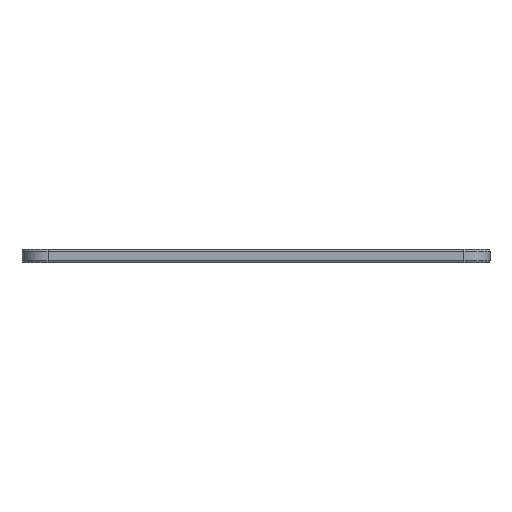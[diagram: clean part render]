
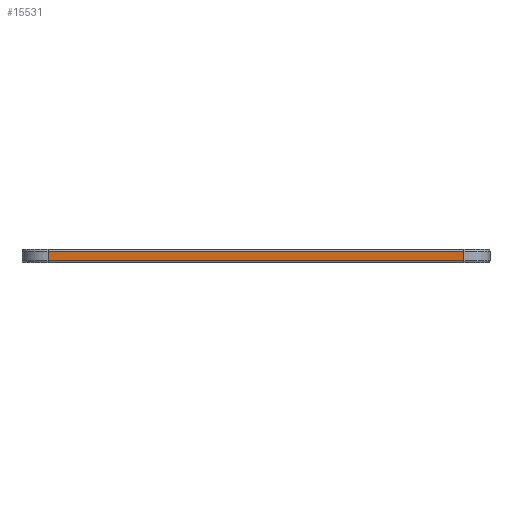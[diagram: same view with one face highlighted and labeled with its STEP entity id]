
A CAD part, front view. The second image highlights one B-rep face of the part: STEP entity #15531.
In plain terms, the highlighted planar face has unit normal (0, -1, 0).
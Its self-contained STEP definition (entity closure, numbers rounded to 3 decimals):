
#567 = CARTESIAN_POINT ( 'NONE',  ( -23.99, -42.8, -0.55 ) ) ;
#1074 = VECTOR ( 'NONE', #11162, 1000. ) ;
#1077 = VERTEX_POINT ( 'NONE', #12503 ) ;
#1150 = DIRECTION ( 'NONE',  ( 0., 0., -1. ) ) ;
#1153 = ORIENTED_EDGE ( 'NONE', *, *, #16651, .T. ) ;
#1543 = CARTESIAN_POINT ( 'NONE',  ( -26.99, -42.8, -0.55 ) ) ;
#2132 = DIRECTION ( 'NONE',  ( 0., 0., 1. ) ) ;
#2276 = CARTESIAN_POINT ( 'NONE',  ( -26.99, -42.8, 0.75 ) ) ;
#2486 = EDGE_CURVE ( 'NONE', #3443, #2651, #16716, .T. ) ;
#2651 = VERTEX_POINT ( 'NONE', #567 ) ;
#3443 = VERTEX_POINT ( 'NONE', #5378 ) ;
#3484 = ORIENTED_EDGE ( 'NONE', *, *, #11502, .T. ) ;
#3881 = VERTEX_POINT ( 'NONE', #16282 ) ;
#4046 = AXIS2_PLACEMENT_3D ( 'NONE', #2276, #11900, #13592 ) ;
#4590 = ORIENTED_EDGE ( 'NONE', *, *, #2486, .T. ) ;
#4704 = LINE ( 'NONE', #6103, #17400 ) ;
#5093 = EDGE_LOOP ( 'NONE', ( #4590, #3484, #9844, #1153 ) ) ;
#5378 = CARTESIAN_POINT ( 'NONE',  ( -23.99, -42.8, 0.55 ) ) ;
#6103 = CARTESIAN_POINT ( 'NONE',  ( 23.99, -42.8, 0.75 ) ) ;
#7449 = VECTOR ( 'NONE', #1150, 1000. ) ;
#9114 = CARTESIAN_POINT ( 'NONE',  ( -23.99, -42.8, 0.55 ) ) ;
#9844 = ORIENTED_EDGE ( 'NONE', *, *, #12222, .T. ) ;
#10507 = PLANE ( 'NONE',  #4046 ) ;
#11162 = DIRECTION ( 'NONE',  ( 1., 0., 0. ) ) ;
#11502 = EDGE_CURVE ( 'NONE', #2651, #3881, #16191, .T. ) ;
#11900 = DIRECTION ( 'NONE',  ( 0., 1., 0. ) ) ;
#12001 = FACE_OUTER_BOUND ( 'NONE', #5093, .T. ) ;
#12222 = EDGE_CURVE ( 'NONE', #3881, #1077, #4704, .T. ) ;
#12503 = CARTESIAN_POINT ( 'NONE',  ( 23.99, -42.8, 0.55 ) ) ;
#13490 = DIRECTION ( 'NONE',  ( -1., 0., 0. ) ) ;
#13592 = DIRECTION ( 'NONE',  ( -1., 0., 0. ) ) ;
#14120 = LINE ( 'NONE', #9114, #17120 ) ;
#15531 = ADVANCED_FACE ( 'NONE', ( #12001 ), #10507, .F. ) ;
#16191 = LINE ( 'NONE', #1543, #1074 ) ;
#16282 = CARTESIAN_POINT ( 'NONE',  ( 23.99, -42.8, -0.55 ) ) ;
#16295 = CARTESIAN_POINT ( 'NONE',  ( -23.99, -42.8, 0.75 ) ) ;
#16651 = EDGE_CURVE ( 'NONE', #1077, #3443, #14120, .T. ) ;
#16716 = LINE ( 'NONE', #16295, #7449 ) ;
#17120 = VECTOR ( 'NONE', #13490, 1000. ) ;
#17400 = VECTOR ( 'NONE', #2132, 1000. ) ;
